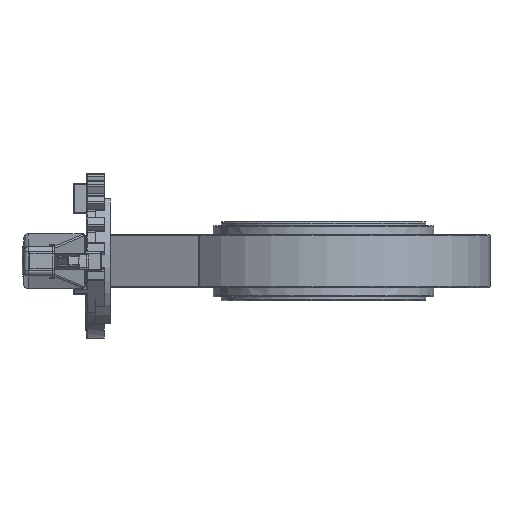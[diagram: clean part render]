
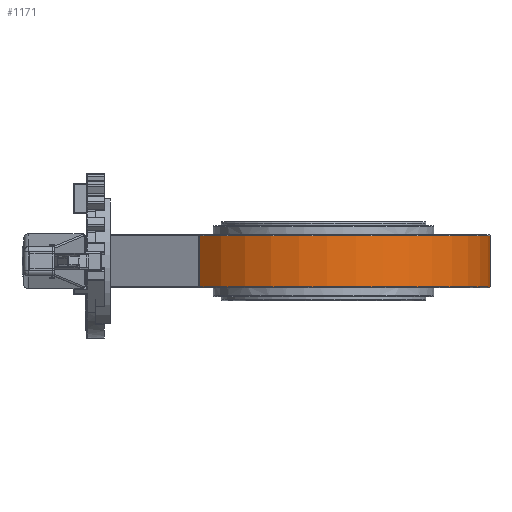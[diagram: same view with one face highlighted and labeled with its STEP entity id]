
A CAD part, left-side view. The second image highlights one B-rep face of the part: STEP entity #1171.
In plain terms, the highlighted cylindrical face has radius 113.25 mm (diameter 226.5 mm), a partial arc.
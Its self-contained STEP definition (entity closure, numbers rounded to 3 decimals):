
#1171=ADVANCED_FACE('',(#9674),#9676,.T.);
#9674=FACE_BOUND('',#9675,.T.);
#9675=EDGE_LOOP('',(#27140,#27141,#27142,#27143));
#9676=CYLINDRICAL_SURFACE('',#9677,113.25);
#9677=AXIS2_PLACEMENT_3D('',#9678,#9679,#9680);
#9678=CARTESIAN_POINT('',(0.,0.,0.));
#9679=DIRECTION('',(0.,0.,1.));
#9680=DIRECTION('',(0.,-1.,0.));
#27140=ORIENTED_EDGE('',*,*,#31596,.F.);
#27141=ORIENTED_EDGE('',*,*,#31593,.F.);
#27142=ORIENTED_EDGE('',*,*,#31518,.F.);
#27143=ORIENTED_EDGE('',*,*,#31690,.F.);
#31518=EDGE_CURVE('',#34095,#34098,#34099,.T.);
#31593=EDGE_CURVE('',#34098,#34220,#34222,.T.);
#31596=EDGE_CURVE('',#34220,#34225,#34226,.T.);
#31690=EDGE_CURVE('',#34225,#34095,#34376,.T.);
#34095=VERTEX_POINT('',#39011);
#34098=VERTEX_POINT('',#39020);
#34099=CIRCLE('',#39021,113.25);
#34220=VERTEX_POINT('',#40517);
#34222=LINE('',#40522,#40523);
#34225=VERTEX_POINT('',#40533);
#34226=CIRCLE('',#40534,113.25);
#34376=LINE('',#42351,#42352);
#39011=CARTESIAN_POINT('',(75.807,84.136,-17.5));
#39020=CARTESIAN_POINT('',(-75.807,84.136,-17.5));
#39021=AXIS2_PLACEMENT_3D('',#39022,#39023,#39024);
#39022=CARTESIAN_POINT('',(0.,0.,-17.5));
#39023=DIRECTION('',(0.,0.,-1.));
#39024=DIRECTION('',(0.669,0.743,0.));
#40517=CARTESIAN_POINT('',(-75.807,84.136,17.5));
#40522=CARTESIAN_POINT('',(-75.807,84.136,-17.5));
#40523=VECTOR('',#40524,1.);
#40524=DIRECTION('',(0.,0.,1.));
#40533=CARTESIAN_POINT('',(75.807,84.136,17.5));
#40534=AXIS2_PLACEMENT_3D('',#40535,#40536,#40537);
#40535=CARTESIAN_POINT('',(0.,0.,17.5));
#40536=DIRECTION('',(0.,0.,1.));
#40537=DIRECTION('',(-0.669,0.743,0.));
#42351=CARTESIAN_POINT('',(75.807,84.136,17.5));
#42352=VECTOR('',#42353,1.);
#42353=DIRECTION('',(0.,0.,-1.));
